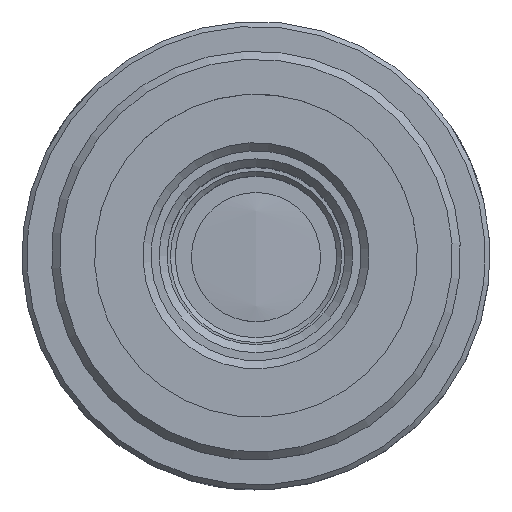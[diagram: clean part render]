
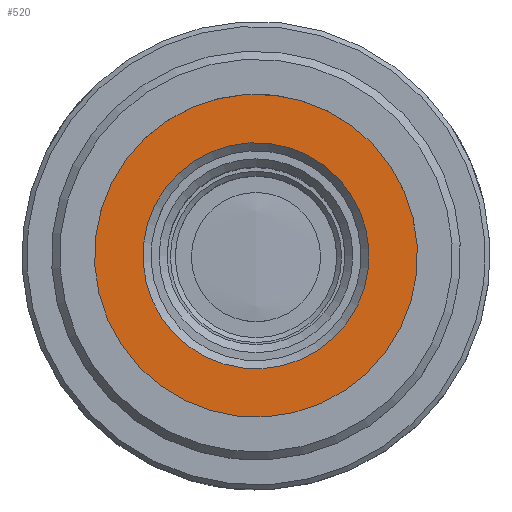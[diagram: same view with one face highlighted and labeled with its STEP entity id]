
A CAD part, top view. The second image highlights one B-rep face of the part: STEP entity #520.
In plain terms, the highlighted planar face has unit normal (0, 0, 1).
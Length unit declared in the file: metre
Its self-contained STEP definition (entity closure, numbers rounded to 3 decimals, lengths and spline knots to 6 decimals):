
#520=ADVANCED_FACE('NONE',(#1430,#1431),#1432,.F.);
#952=EDGE_CURVE('NONE',#2171,#2171,#2172,.T.);
#954=EDGE_CURVE('NONE',#2174,#2174,#2175,.T.);
#1430=FACE_OUTER_BOUND('',#2797,.T.);
#1431=FACE_BOUND('',#2798,.T.);
#1432=PLANE('',#2799);
#2171=VERTEX_POINT('',#3911);
#2172=CIRCLE('',#3912,0.01);
#2174=VERTEX_POINT('',#3915);
#2175=CIRCLE('',#3916,0.007);
#2797=EDGE_LOOP('',(#5056));
#2798=EDGE_LOOP('',(#5057));
#2799=AXIS2_PLACEMENT_3D('',#5058,#5059,#5060);
#3911=CARTESIAN_POINT('',(-0.008698,0.00548,0.051269));
#3912=AXIS2_PLACEMENT_3D('',#6130,#6131,#6132);
#3915=CARTESIAN_POINT('',(-0.005717,0.005144,0.051269));
#3916=AXIS2_PLACEMENT_3D('',#6133,#6134,#6135);
#5056=ORIENTED_EDGE('',*,*,#952,.F.);
#5057=ORIENTED_EDGE('',*,*,#954,.T.);
#5058=CARTESIAN_POINT('',(0.002361,0.014296,0.051269));
#5059=DIRECTION('',(0.,0.0,-1.0));
#5060=DIRECTION('',(0.0,-1.0,0.0));
#6130=CARTESIAN_POINT('',(0.001239,0.004359,0.051269));
#6131=DIRECTION('',(0.,0.,-1.0));
#6132=DIRECTION('',(-0.994,0.112,0.));
#6133=CARTESIAN_POINT('',(0.001239,0.004359,0.051269));
#6134=DIRECTION('',(0.,0.,-1.0));
#6135=DIRECTION('',(-0.994,0.112,0.));
